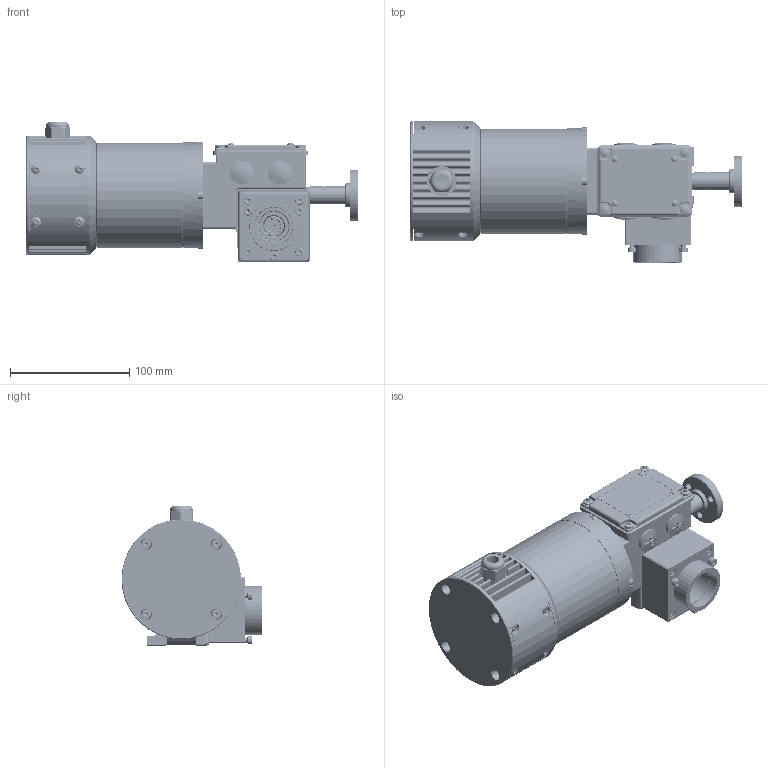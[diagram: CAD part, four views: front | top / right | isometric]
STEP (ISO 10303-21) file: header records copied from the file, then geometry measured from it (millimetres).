
FILE_DESCRIPTION(/* description */ ('ANELLO OR 67.94X2.62 TIPO 32.68 VITON'),/* implementation_level */ '2;1');
FILE_NAME(/* name */ 'C:\Users\giuseppe.caruso.MINIMOTOR\Desktop\MODELLI STP\WEB\MCCE ...MP3N B3S.stp',/* time_stamp */ '2014-07-10T11:32:44+02:00',/* author */ ('giuseppe.caruso'),/* organization */ (''),/* preprocessor_version */ 'ST-DEVELOPER v15.6',/* originating_system */ 'Autodesk Inventor 2015',/* authorisation */ '');
FILE_SCHEMA (('AUTOMOTIVE_DESIGN { 1 0 10303 214 3 1 1 }'));
Products named in the file (48): OR001; CRT001-1; CRT001-2; CRT001-3; CRT001-4; CRT001-5; CRT001-6; CRT001; VCE410; VCE435; CHI003; VSE616; VTC408; VCE420; VCE416; SPN018; RIV014I; VTC410S; TPP001; BOC001; OR009; ALR050; CRN002; ING278; SRD061; GRN035; CPM005A; TRG001; STT033; MGN001S; MGN001N; STT033C; CPR060; CPR070; CUF044; CUF051-CSA; CUF055; GRN025; TPP009; GRN032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
Bounding box: 277.9 x 118 x 117.5 mm (x, y, z)
Volume: 735121.4 mm3; surface area: 357090.6 mm2
Topology: 89 solids, 91 shells, 4602 faces, 12163 edges, 7905 vertices
Faces by surface type: plane 2725, cylinder 1234, cone 384, torus 181, sphere 55, bspline 23
Full cylindrical faces by diameter (mm): 1.6 x2, 2.459 x1, 2.6 x1, 2.7 x8, 3.242 x47, 3.4 x4, 3.8 x4, 4 x51, 4.134 x3, 4.2 x4, 4.25 x3, 4.5 x39, 4.917 x1, 5 x4, 5.1 x4, 6 x5, 6.561 x1, 7 x26, 7.25 x3, 7.5 x7, 7.6 x1, 8 x14, 8.5 x8, 10 x1, 11 x5, 11.57 x1, 14 x2, 14.376 x5, 14.38 x1, 15 x3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
Entity records: 102463 total; most frequent: CARTESIAN_POINT 19724, DIRECTION 17017, ORIENTED_EDGE 16456, EDGE_CURVE 8228, AXIS2_PLACEMENT_3D 5701, LINE 5615, VECTOR 5615, VERTEX_POINT 5577
